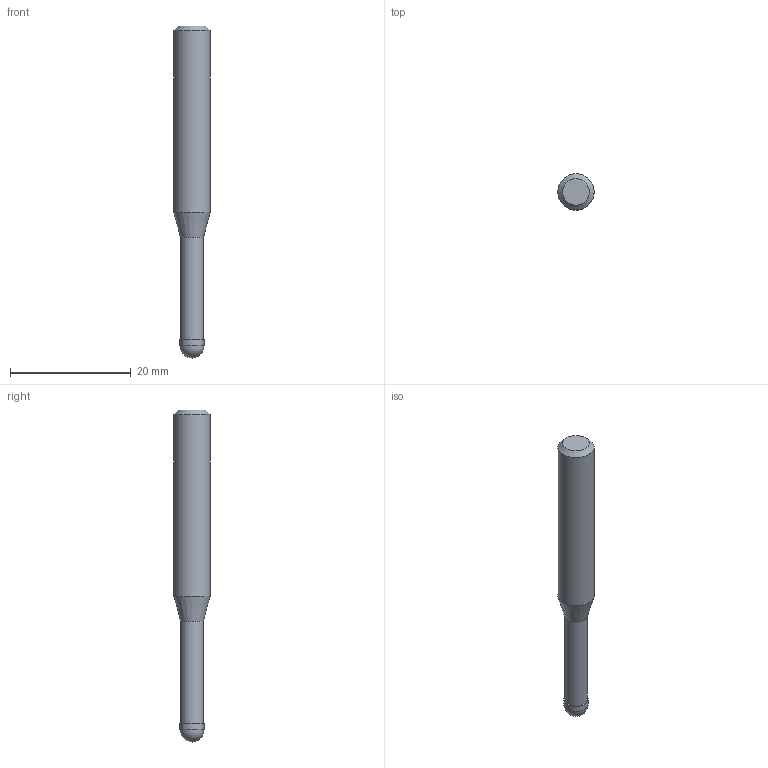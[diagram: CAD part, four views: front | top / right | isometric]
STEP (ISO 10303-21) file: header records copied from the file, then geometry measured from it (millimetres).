
FILE_DESCRIPTION((''),'2;1');
FILE_NAME('C:\Users\nsx150\AppData\Local\Temp\Mastercam 2021\QT8KEW0Y7J\TEMP.step','2021-04-23T11:21:59',(''),(''),'STEP Write','Mastercam 2021 ... CNC Software, Inc.','');
FILE_SCHEMA(('AUTOMOTIVE_DESIGN'));
Length unit declared in the file: millimetre
Products named in the file (1): None
Bounding box: 6 x 6 x 55 mm (x, y, z)
Volume: 1168.9 mm3; surface area: 930.9 mm2
Topology: 2 solids, 2 shells, 9 faces, 14 edges, 8 vertices
Faces by surface type: plane 3, cylinder 3, cone 2, sphere 1
Full cylindrical faces by diameter (mm): 3.8 x1, 4 x1, 6 x1
Entity records: 211 total; most frequent: DIRECTION 36, CARTESIAN_POINT 25, AXIS2_PLACEMENT_3D 18, ORIENTED_EDGE 14, EDGE_LOOP 14, STYLED_ITEM 12, ADVANCED_FACE 9, FACE_BOUND 8
